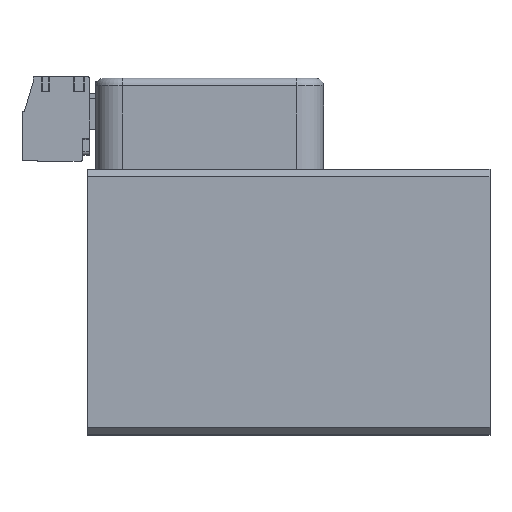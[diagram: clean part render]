
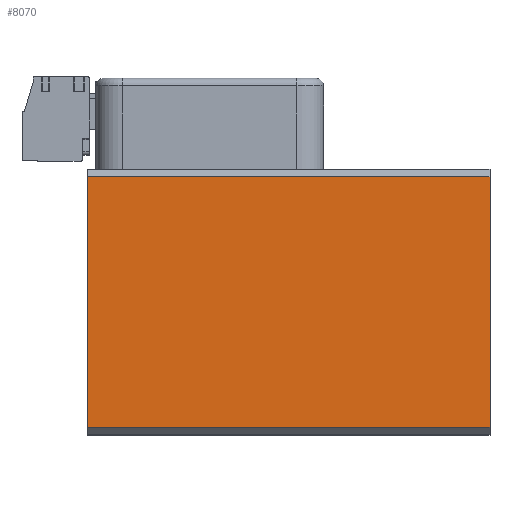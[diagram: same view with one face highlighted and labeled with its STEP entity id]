
A CAD part, top view. The second image highlights one B-rep face of the part: STEP entity #8070.
In plain terms, the highlighted planar face has unit normal (0, 0, 1).
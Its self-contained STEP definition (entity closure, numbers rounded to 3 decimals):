
#159 = VECTOR ( 'NONE', #11180, 1000. ) ;
#900 = AXIS2_PLACEMENT_3D ( 'NONE', #17124, #6847, #18861 ) ;
#2172 = VECTOR ( 'NONE', #21388, 1000. ) ;
#2307 = CARTESIAN_POINT ( 'NONE',  ( 0., -16.5, 17.5 ) ) ;
#2563 = CARTESIAN_POINT ( 'NONE',  ( 53., -16.5, 17.5 ) ) ;
#2767 = ORIENTED_EDGE ( 'NONE', *, *, #14697, .F. ) ;
#3214 = LINE ( 'NONE', #17464, #11749 ) ;
#5483 = ORIENTED_EDGE ( 'NONE', *, *, #18859, .T. ) ;
#6847 = DIRECTION ( 'NONE',  ( 0., 0., -1. ) ) ;
#6876 = ORIENTED_EDGE ( 'NONE', *, *, #17140, .T. ) ;
#7842 = FACE_OUTER_BOUND ( 'NONE', #12113, .T. ) ;
#7872 = VERTEX_POINT ( 'NONE', #16442 ) ;
#8070 = ADVANCED_FACE ( 'NONE', ( #7842 ), #10248, .F. ) ;
#10248 = PLANE ( 'NONE',  #900 ) ;
#11103 = CARTESIAN_POINT ( 'NONE',  ( 53., -16.5, 17.5 ) ) ;
#11180 = DIRECTION ( 'NONE',  ( 1., 0., 0. ) ) ;
#11749 = VECTOR ( 'NONE', #19178, 1000. ) ;
#12113 = EDGE_LOOP ( 'NONE', ( #5483, #6876, #2767, #12429 ) ) ;
#12429 = ORIENTED_EDGE ( 'NONE', *, *, #20723, .T. ) ;
#13767 = LINE ( 'NONE', #11103, #159 ) ;
#14697 = EDGE_CURVE ( 'NONE', #7872, #16761, #15834, .T. ) ;
#15302 = CARTESIAN_POINT ( 'NONE',  ( 0., -17.5, 17.5 ) ) ;
#15834 = LINE ( 'NONE', #19663, #2172 ) ;
#16086 = VERTEX_POINT ( 'NONE', #18876 ) ;
#16326 = LINE ( 'NONE', #15302, #20869 ) ;
#16442 = CARTESIAN_POINT ( 'NONE',  ( 53., 16.5, 17.5 ) ) ;
#16761 = VERTEX_POINT ( 'NONE', #2563 ) ;
#17124 = CARTESIAN_POINT ( 'NONE',  ( 53., -17.5, 17.5 ) ) ;
#17140 = EDGE_CURVE ( 'NONE', #20794, #16761, #13767, .T. ) ;
#17464 = CARTESIAN_POINT ( 'NONE',  ( 53., 16.5, 17.5 ) ) ;
#18710 = DIRECTION ( 'NONE',  ( 0., -1., 0. ) ) ;
#18859 = EDGE_CURVE ( 'NONE', #16086, #20794, #16326, .T. ) ;
#18861 = DIRECTION ( 'NONE',  ( -1., 0., 0. ) ) ;
#18876 = CARTESIAN_POINT ( 'NONE',  ( 0., 16.5, 17.5 ) ) ;
#19178 = DIRECTION ( 'NONE',  ( -1., 0., 0. ) ) ;
#19663 = CARTESIAN_POINT ( 'NONE',  ( 53., -17.5, 17.5 ) ) ;
#20723 = EDGE_CURVE ( 'NONE', #7872, #16086, #3214, .T. ) ;
#20794 = VERTEX_POINT ( 'NONE', #2307 ) ;
#20869 = VECTOR ( 'NONE', #18710, 1000. ) ;
#21388 = DIRECTION ( 'NONE',  ( 0., -1., 0. ) ) ;
